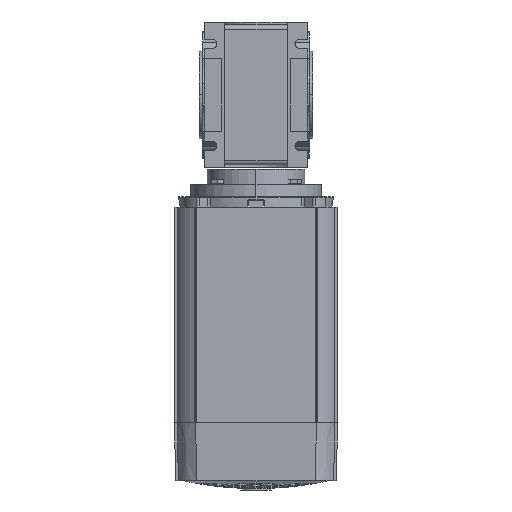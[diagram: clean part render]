
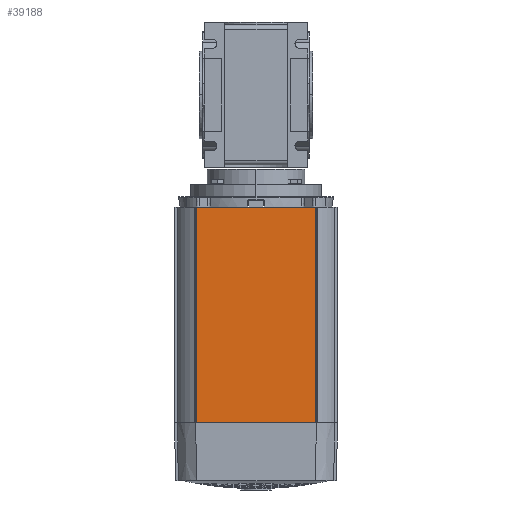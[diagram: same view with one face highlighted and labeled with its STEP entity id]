
A CAD part, front view. The second image highlights one B-rep face of the part: STEP entity #39188.
In plain terms, the highlighted planar face has unit normal (0, -1, 0).
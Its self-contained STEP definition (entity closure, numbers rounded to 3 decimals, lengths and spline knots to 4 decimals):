
#29918 = DIRECTION ( 'NONE',  ( 0., 0., -1. ) ) ;
#29919 = DIRECTION ( 'NONE',  ( 0., -1., 0. ) ) ;
#29920 = AXIS2_PLACEMENT_3D ( 'NONE', #29921, #29919, #29918 ) ;
#29921 = CARTESIAN_POINT ( 'NONE',  ( -1.64, -2.21, -4.079 ) ) ;
#29922 = PLANE ( 'NONE',  #29920 ) ;
#29923 = FACE_OUTER_BOUND ( 'NONE', #39168, .T. ) ;
#30040 = CARTESIAN_POINT ( 'NONE',  ( -1.62, -2.21, 4.104 ) ) ;
#30078 = DIRECTION ( 'NONE',  ( 0., 0., -1. ) ) ;
#30080 = VECTOR ( 'NONE', #30078, 39.3701 ) ;
#30081 = CARTESIAN_POINT ( 'NONE',  ( -1.62, -2.21, -4.079 ) ) ;
#30082 = LINE ( 'NONE', #30081, #30080 ) ;
#30084 = CARTESIAN_POINT ( 'NONE',  ( -1.62, -2.21, -1.723 ) ) ;
#30936 = DIRECTION ( 'NONE',  ( 1., 0., 0. ) ) ;
#30938 = VECTOR ( 'NONE', #30936, 39.3701 ) ;
#30939 = CARTESIAN_POINT ( 'NONE',  ( -1.64, -2.21, 4.104 ) ) ;
#30940 = LINE ( 'NONE', #30939, #30938 ) ;
#30966 = CARTESIAN_POINT ( 'NONE',  ( 1.62, -2.21, 4.104 ) ) ;
#31255 = DIRECTION ( 'NONE',  ( 0., 0., 1. ) ) ;
#31256 = VECTOR ( 'NONE', #31255, 39.3701 ) ;
#31257 = CARTESIAN_POINT ( 'NONE',  ( 1.62, -2.21, -4.079 ) ) ;
#31258 = LINE ( 'NONE', #31257, #31256 ) ;
#31259 = CARTESIAN_POINT ( 'NONE',  ( 1.62, -2.21, -1.723 ) ) ;
#31260 = DIRECTION ( 'NONE',  ( 1., 0., 0. ) ) ;
#31261 = VECTOR ( 'NONE', #31260, 39.3701 ) ;
#31262 = CARTESIAN_POINT ( 'NONE',  ( 2.21, -2.21, -1.723 ) ) ;
#31263 = LINE ( 'NONE', #31262, #31261 ) ;
#39168 = EDGE_LOOP ( 'NONE', ( #39803, #39804, #39809, #39639 ) ) ;
#39188 = ADVANCED_FACE ( 'NONE', ( #29923 ), #29922, .T. ) ;
#39241 = VERTEX_POINT ( 'NONE', #30040 ) ;
#39247 = VERTEX_POINT ( 'NONE', #30084 ) ;
#39250 = EDGE_CURVE ( 'NONE', #39241, #39247, #30082, .T. ) ;
#39639 = ORIENTED_EDGE ( 'NONE', *, *, #39661, .F. ) ;
#39661 = EDGE_CURVE ( 'NONE', #39241, #39680, #30940, .T. ) ;
#39680 = VERTEX_POINT ( 'NONE', #30966 ) ;
#39788 = EDGE_CURVE ( 'NONE', #39247, #39789, #31263, .T. ) ;
#39789 = VERTEX_POINT ( 'NONE', #31259 ) ;
#39791 = EDGE_CURVE ( 'NONE', #39789, #39680, #31258, .T. ) ;
#39803 = ORIENTED_EDGE ( 'NONE', *, *, #39250, .T. ) ;
#39804 = ORIENTED_EDGE ( 'NONE', *, *, #39788, .T. ) ;
#39809 = ORIENTED_EDGE ( 'NONE', *, *, #39791, .T. ) ;
